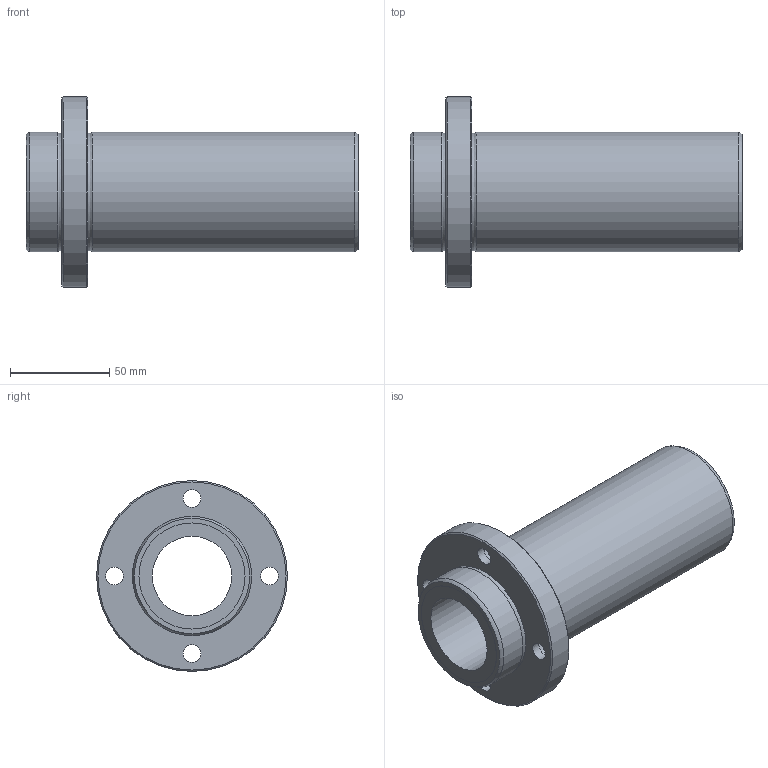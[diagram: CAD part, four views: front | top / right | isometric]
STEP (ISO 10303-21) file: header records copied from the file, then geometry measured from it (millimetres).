
FILE_DESCRIPTION((''),'2;1');
FILE_NAME('C:\Documents and Settings\土屋\My Documents\土屋移動用フォルダ\製品 (図面)\カタログ用3D\変換ファイル\OZAK_3D-CAD(STEP形式)\Part1.-Linear Bearings_ﾘﾆｱﾍﾞｱﾘﾝｸﾞ\09_Maintenance Free_ﾒｲﾝﾃﾅﾝｽﾌﾘｰ\L2017-09-21T14:28:52','2017-09-21T14:28:52',('y'),(''),'Autodesk Inventor 11','Autodesk Inventor 11','');
FILE_SCHEMA(('AUTOMOTIVE_DESIGN { 1 0 10303 214 1 1 1 1 }'));
Length unit declared in the file: millimetre
Products named in the file (1): LFDB-MF
Bounding box: 167 x 96 x 96 mm (x, y, z)
Volume: 312257.2 mm3; surface area: 67032.7 mm2
Topology: 1 solids, 1 shells, 30 faces, 54 edges, 34 vertices
Faces by surface type: bspline 14, cylinder 6, plane 6, cone 2, torus 2
Full cylindrical faces by diameter (mm): 40 x1, 53.4 x2, 60 x2, 96 x1
Entity records: 907 total; most frequent: CARTESIAN_POINT 371, DIRECTION 102, ORIENTED_EDGE 68, EDGE_LOOP 68, AXIS2_PLACEMENT_3D 51, FACE_BOUND 38, VERTEX_POINT 34, CIRCLE 34
